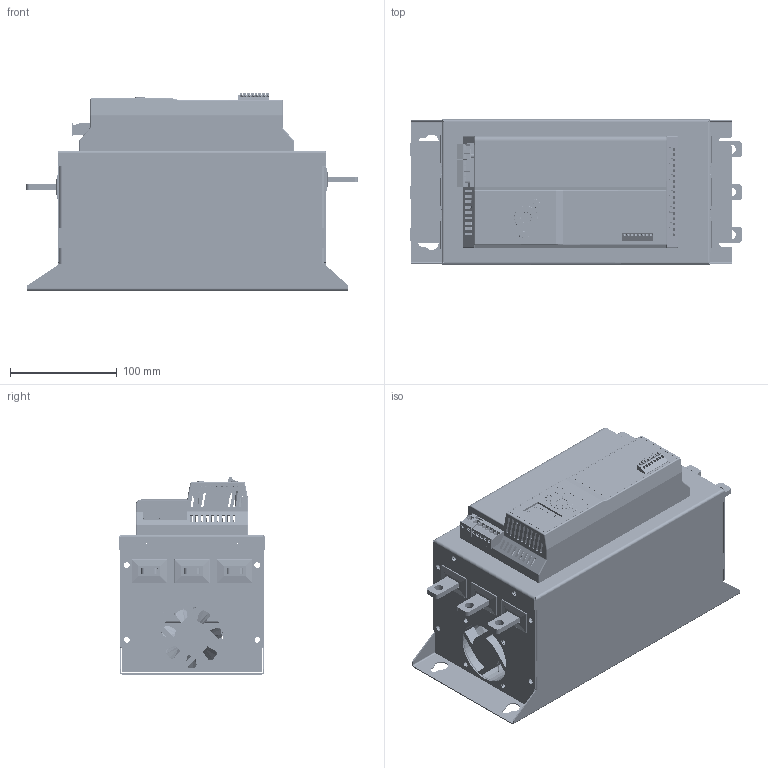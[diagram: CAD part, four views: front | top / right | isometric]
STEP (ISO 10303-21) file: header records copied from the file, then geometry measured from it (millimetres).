
FILE_DESCRIPTION(('FreeCAD Model'),'2;1');
FILE_NAME('Open CASCADE Shape Model','2026-06-18T14:27:31',(''),(''), 'Open CASCADE STEP processor 7.8','FreeCAD','Unknown');
FILE_SCHEMA(('AUTOMOTIVE_DESIGN { 1 0 10303 214 1 1 1 1 }'));
Length unit declared in the file: millimetre
Products named in the file (91): PS20-FRAME-C; 8800-45-75-0001_ASM_1_ASM; 8800-45-75-00_1-7238; 8800-15--2_0001_ASM_1_ASM; 8800-75-_000_1; _160A-DMI5E8C7426R0001_ASM_1_ASM; ADMI5E8C7426R9X3_1___1; ADMI5E8C7426R9X3_2___1; ADMI5E8C7426R9X3_3___1; ADMI5E8C7426R9X3_4___1; ADMI5E8C7426R9X3_5___1; ADMI5E8C7426R9X3_6___1; ADMI5E8C7426R9X3_7___1; ADMI5E8C7426R9X3_8___1; ADMI5E8C7426R9X3_9___1; ADMI5E8C7426R9X3_10___1; ADMI5E8C7426R9X3_11___1; ADMI5E8C7426R9X3_12___1; ADMI5E8C7426R9X3_13___1; ADMI5E8C7426R9X3_14___1; ADMI5E8C7426R9X3_15___1; ADMI5E8C7426R9X3_16___1; ADMI5E8C7426R9X3_17___1; _160A-DMI5E8C7426R0001_ASM_1_ASM001; _160A-DMI5E8C7426R0001_ASM_1_ASM002; _160A-DMI5E8C7426R0001_ASM_1_ASM003; 8800-45-755-0001_1; 8800-45-75-0003_1; _110A-000_1; 8800-45-0001_1; 8800-45-75-000_1; 8800-45-75KW-000_1-91663; 8800-45-75KW-000_1-94428; 8800-45-75-00_1-98930; MN-45-75-DUTOU_1; CIHUAN-1000-1__1; 6025-_0001_ASM_1_ASM; 6025__0001_1; 6025__000_1; 8800-45-75-0006_1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
Assembly tree (189 placements, depth 6):
  PS20-FRAME-C
    8800-45-75-0001_ASM_1_ASM
      8800-45-75-00_1-7238
      8800-15--2_0001_ASM_1_ASM
        8800-75-_000_1
        _160A-DMI5E8C7426R0001_ASM_1_ASM
          ADMI5E8C7426R9X3_1___1
          ADMI5E8C7426R9X3_2___1
          ADMI5E8C7426R9X3_3___1
          ADMI5E8C7426R9X3_4___1
          ADMI5E8C7426R9X3_5___1
          ADMI5E8C7426R9X3_6___1
          ADMI5E8C7426R9X3_7___1
          ADMI5E8C7426R9X3_8___1
          ADMI5E8C7426R9X3_9___1
          ADMI5E8C7426R9X3_10___1
          ADMI5E8C7426R9X3_11___1
          ADMI5E8C7426R9X3_12___1
          ADMI5E8C7426R9X3_13___1
          ADMI5E8C7426R9X3_14___1
          ADMI5E8C7426R9X3_15___1
          ADMI5E8C7426R9X3_16___1
          ADMI5E8C7426R9X3_17___1
        _160A-DMI5E8C7426R0001_ASM_1_ASM001
          ADMI5E8C7426R9X3_1___1
          ADMI5E8C7426R9X3_2___1
          ADMI5E8C7426R9X3_3___1
          ADMI5E8C7426R9X3_4___1
          ADMI5E8C7426R9X3_5___1
          ADMI5E8C7426R9X3_6___1
          ADMI5E8C7426R9X3_7___1
          ADMI5E8C7426R9X3_8___1
          ADMI5E8C7426R9X3_9___1
          ADMI5E8C7426R9X3_10___1
          ADMI5E8C7426R9X3_11___1
          ADMI5E8C7426R9X3_12___1
          ADMI5E8C7426R9X3_13___1
          ADMI5E8C7426R9X3_14___1
          ADMI5E8C7426R9X3_15___1
          ADMI5E8C7426R9X3_16___1
          ADMI5E8C7426R9X3_17___1
        _160A-DMI5E8C7426R0001_ASM_1_ASM002
          ADMI5E8C7426R9X3_1___1
          ADMI5E8C7426R9X3_2___1
          ADMI5E8C7426R9X3_3___1
          ADMI5E8C7426R9X3_4___1
          ADMI5E8C7426R9X3_5___1
          ADMI5E8C7426R9X3_6___1
          ADMI5E8C7426R9X3_7___1
          ADMI5E8C7426R9X3_8___1
          ADMI5E8C7426R9X3_9___1
          ADMI5E8C7426R9X3_10___1
          ADMI5E8C7426R9X3_11___1
          ADMI5E8C7426R9X3_12___1
          ADMI5E8C7426R9X3_13___1
          ADMI5E8C7426R9X3_14___1
          ADMI5E8C7426R9X3_15___1
          ADMI5E8C7426R9X3_16___1
          ADMI5E8C7426R9X3_17___1
        _160A-DMI5E8C7426R0001_ASM_1_ASM003
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Bounding box: 310.71 x 136 x 184.7 mm (x, y, z)
Volume: 1333574.8 mm3; surface area: 1124608.8 mm2
Topology: 156 solids, 202 shells, 12629 faces, 35039 edges, 23160 vertices
Faces by surface type: plane 8254, cylinder 2523, extrusion 1106, torus 387, bspline 190, sphere 105, cone 64
Entity records: 197269 total; most frequent: CARTESIAN_POINT 46853, ORIENTED_EDGE 30049, DIRECTION 27859, EDGE_CURVE 15561, VECTOR 12199, LINE 11921, VERTEX_POINT 10379, AXIS2_PLACEMENT_3D 7830
